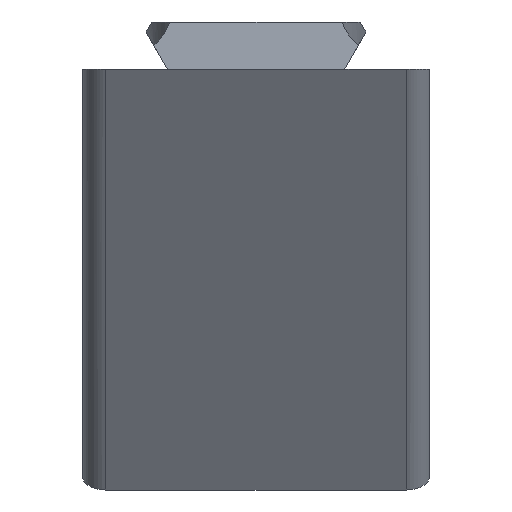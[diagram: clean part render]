
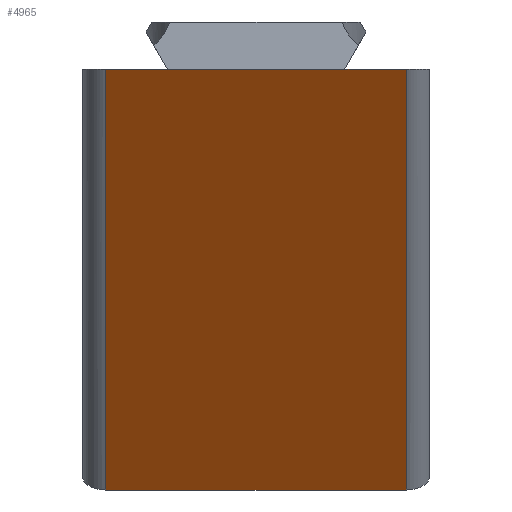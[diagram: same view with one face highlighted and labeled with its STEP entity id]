
A CAD part, left-side view. The second image highlights one B-rep face of the part: STEP entity #4965.
In plain terms, the highlighted planar face has unit normal (-0.809, 0, -0.588).
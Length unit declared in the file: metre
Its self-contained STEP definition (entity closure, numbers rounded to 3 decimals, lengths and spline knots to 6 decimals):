
#793=ORIENTED_EDGE('',*,*,#2069,.T.);
#794=ORIENTED_EDGE('',*,*,#2289,.T.);
#795=ORIENTED_EDGE('',*,*,#2021,.F.);
#796=ORIENTED_EDGE('',*,*,#2290,.T.);
#797=ORIENTED_EDGE('',*,*,#2085,.T.);
#798=ORIENTED_EDGE('',*,*,#2284,.T.);
#2021=EDGE_CURVE('',#2785,#2786,#3294,.T.);
#2069=EDGE_CURVE('',#2834,#2833,#3318,.T.);
#2085=EDGE_CURVE('',#2850,#2849,#3328,.T.);
#2284=EDGE_CURVE('',#2849,#2834,#3412,.T.);
#2289=EDGE_CURVE('',#2833,#2786,#3413,.T.);
#2290=EDGE_CURVE('',#2785,#2850,#3414,.F.);
#2785=VERTEX_POINT('',#6565);
#2786=VERTEX_POINT('',#6567);
#2833=VERTEX_POINT('',#6665);
#2834=VERTEX_POINT('',#6667);
#2849=VERTEX_POINT('',#6697);
#2850=VERTEX_POINT('',#6699);
#3294=LINE('',#6566,#3740);
#3318=LINE('',#6666,#3764);
#3328=LINE('',#6698,#3774);
#3412=LINE('',#7263,#3858);
#3413=LINE('',#7274,#3859);
#3414=LINE('',#7275,#3860);
#3740=VECTOR('',#5542,1.);
#3764=VECTOR('',#5622,1.);
#3774=VECTOR('',#5644,1.);
#3858=VECTOR('',#5812,1.);
#3859=VECTOR('',#5829,1.);
#3860=VECTOR('',#5830,1.);
#4225=EDGE_LOOP('',(#793,#794,#795,#796,#797,#798));
#4543=FACE_BOUND('',#4225,.T.);
#4834=PLANE('',#5326);
#4965=ADVANCED_FACE('',(#4543),#4834,.F.);
#5326=AXIS2_PLACEMENT_3D('',#7273,#5827,#5828);
#5542=DIRECTION('',(0.,1.,0.));
#5622=DIRECTION('',(0.,1.,0.));
#5644=DIRECTION('',(0.,1.,0.));
#5812=DIRECTION('',(0.,1.,0.));
#5827=DIRECTION('',(0.809,0.,0.588));
#5828=DIRECTION('',(0.588,0.,-0.809));
#5829=DIRECTION('',(0.588,0.,-0.809));
#5830=DIRECTION('',(0.588,0.,-0.809));
#6565=CARTESIAN_POINT('',(0.026427,-0.013,-0.036373));
#6566=CARTESIAN_POINT('',(0.026427,-0.015,-0.036373));
#6567=CARTESIAN_POINT('',(0.026427,0.013,-0.036373));
#6665=CARTESIAN_POINT('',(0.,0.013,0.));
#6666=CARTESIAN_POINT('',(0.,-0.015,0.));
#6667=CARTESIAN_POINT('',(0.,0.007695,0.));
#6697=CARTESIAN_POINT('',(0.,-0.007695,0.));
#6698=CARTESIAN_POINT('',(0.,-0.015,0.));
#6699=CARTESIAN_POINT('',(0.,-0.013,0.));
#7263=CARTESIAN_POINT('',(0.,0.,0.));
#7273=CARTESIAN_POINT('',(0.013213,-0.015,-0.018187));
#7274=CARTESIAN_POINT('',(0.013213,0.013,-0.018187));
#7275=CARTESIAN_POINT('',(0.,-0.013,0.));
